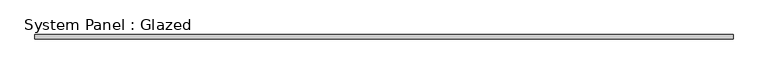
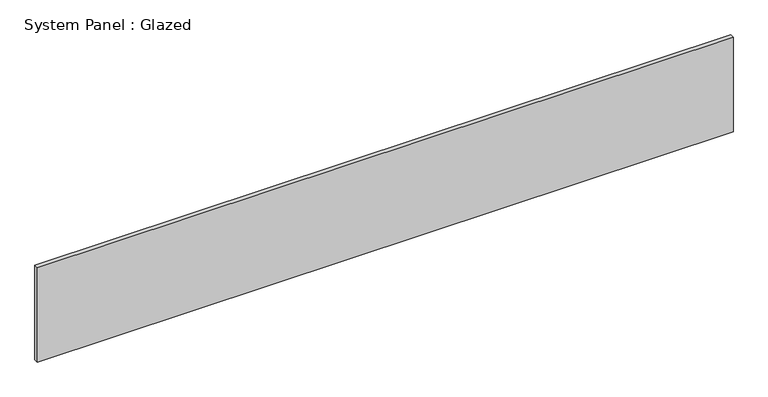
"""IFC4 building model written with IfcOpenShell, lengths in millimetres: plate geometry, System Panel : Glazed."""

from ifc_helpers import new_model, si_unit, origin, origin_with_axes, place, context, project, spatial, polyline, outline, extrude, source, transform, mapped, element, save


def system_panel_glazed_5b8ccad9(model_context):
    return source(origin(), model_context, "Body", "SweptSolid", [
        extrude(outline(polyline([(2092.5, 24.5), (-2092.5, 24.5), (-2092.5, 49.5), (2092.5, 49.5), (2092.5, 24.5)])), origin_with_axes(), (0.0, 0.0, 1.0), 600.0),
    ])


if __name__ == "__main__":
    model = new_model("IFC4")
    model_context = context("Model", 3, world=origin())
    ifc_project = project(units=[si_unit("LENGTHUNIT", "METRE", prefix="MILLI")], contexts=[model_context])
    site = spatial("IfcSite", under=ifc_project)
    building = spatial("IfcBuilding", under=site)
    placement = place(None, origin())
    system_panel_glazed_shape = system_panel_glazed_5b8ccad9(model_context)
    element("IfcPlate", 1, ObjectType="System Panel : Glazed", at=placement, inside=building, context=model_context, shape_type="MappedRepresentation", body=[
        mapped(system_panel_glazed_shape, transform((0.0, 0.0, 0.0), x_axis=(1.0, 0.0, 0.0), y_axis=(0.0, 1.0, 0.0), z_axis=(0.0, 0.0, 1.0))),
    ])
    save(model, "model.ifc")
